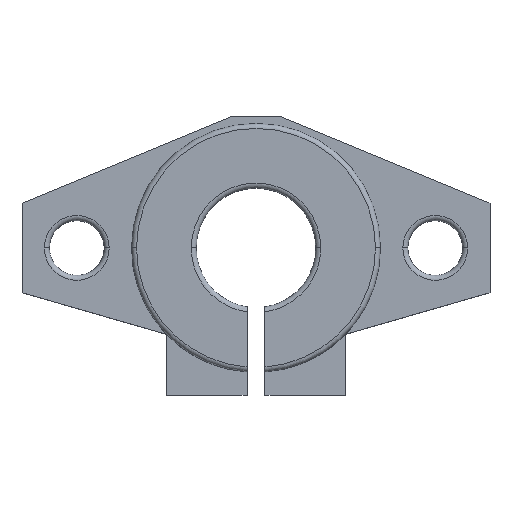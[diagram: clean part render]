
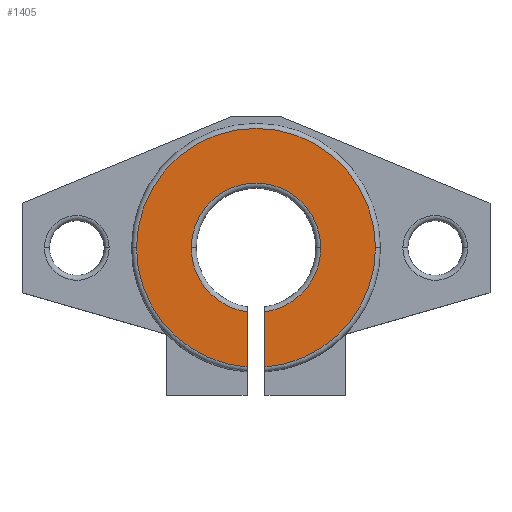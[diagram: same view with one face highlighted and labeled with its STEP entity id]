
A CAD part, top view. The second image highlights one B-rep face of the part: STEP entity #1405.
In plain terms, the highlighted planar face has unit normal (0, 0, 1).
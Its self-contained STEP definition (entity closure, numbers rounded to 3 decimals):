
#8 = EDGE_CURVE ( 'NONE', #993, #473, #818, .T. ) ;
#33 = VERTEX_POINT ( 'NONE', #1013 ) ;
#41 = DIRECTION ( 'NONE',  ( 1., 0., 0. ) ) ;
#45 = CIRCLE ( 'NONE', #127, 12. ) ;
#59 = EDGE_CURVE ( 'NONE', #1027, #1133, #239, .T. ) ;
#127 = AXIS2_PLACEMENT_3D ( 'NONE', #222, #950, #847 ) ;
#141 = CARTESIAN_POINT ( 'NONE',  ( 0., 0., 13. ) ) ;
#200 = ORIENTED_EDGE ( 'NONE', *, *, #751, .F. ) ;
#217 = AXIS2_PLACEMENT_3D ( 'NONE', #1404, #681, #1166 ) ;
#222 = CARTESIAN_POINT ( 'NONE',  ( 0., 0., 13. ) ) ;
#231 = CARTESIAN_POINT ( 'NONE',  ( 6.5, 0., 13. ) ) ;
#234 = CARTESIAN_POINT ( 'NONE',  ( -6.5, 0., 13. ) ) ;
#239 = CIRCLE ( 'NONE', #339, 12. ) ;
#247 = CARTESIAN_POINT ( 'NONE',  ( 0., 0., 13. ) ) ;
#258 = ORIENTED_EDGE ( 'NONE', *, *, #833, .T. ) ;
#263 = AXIS2_PLACEMENT_3D ( 'NONE', #141, #1138, #384 ) ;
#280 = ORIENTED_EDGE ( 'NONE', *, *, #1332, .T. ) ;
#311 = CIRCLE ( 'NONE', #263, 6.5 ) ;
#339 = AXIS2_PLACEMENT_3D ( 'NONE', #777, #1485, #1024 ) ;
#351 = DIRECTION ( 'NONE',  ( 0., 1., 0. ) ) ;
#352 = ORIENTED_EDGE ( 'NONE', *, *, #8, .T. ) ;
#372 = CARTESIAN_POINT ( 'NONE',  ( 0., 0., 13. ) ) ;
#384 = DIRECTION ( 'NONE',  ( 1., 0., 0. ) ) ;
#422 = AXIS2_PLACEMENT_3D ( 'NONE', #887, #524, #41 ) ;
#425 = EDGE_CURVE ( 'NONE', #445, #1204, #1190, .T. ) ;
#434 = DIRECTION ( 'NONE',  ( 0., -1., 0. ) ) ;
#439 = AXIS2_PLACEMENT_3D ( 'NONE', #372, #1113, #752 ) ;
#445 = VERTEX_POINT ( 'NONE', #604 ) ;
#470 = CARTESIAN_POINT ( 'NONE',  ( 0.9, 0., 13. ) ) ;
#473 = VERTEX_POINT ( 'NONE', #231 ) ;
#524 = DIRECTION ( 'NONE',  ( 0., 0., 1. ) ) ;
#593 = ORIENTED_EDGE ( 'NONE', *, *, #59, .T. ) ;
#597 = CARTESIAN_POINT ( 'NONE',  ( 0.9, -6.437, 13. ) ) ;
#604 = CARTESIAN_POINT ( 'NONE',  ( 0.9, -11.966, 13. ) ) ;
#681 = DIRECTION ( 'NONE',  ( 0., 0., -1. ) ) ;
#738 = CARTESIAN_POINT ( 'NONE',  ( -12., 0., 13. ) ) ;
#751 = EDGE_CURVE ( 'NONE', #33, #1133, #1228, .T. ) ;
#752 = DIRECTION ( 'NONE',  ( 1., 0., 0. ) ) ;
#777 = CARTESIAN_POINT ( 'NONE',  ( 0., 0., 13. ) ) ;
#785 = CIRCLE ( 'NONE', #217, 6.5 ) ;
#818 = CIRCLE ( 'NONE', #1083, 6.5 ) ;
#824 = EDGE_LOOP ( 'NONE', ( #1578, #1301, #1336, #593, #200, #280, #352, #258 ) ) ;
#833 = EDGE_CURVE ( 'NONE', #473, #1204, #785, .T. ) ;
#847 = DIRECTION ( 'NONE',  ( 1., 0., 0. ) ) ;
#887 = CARTESIAN_POINT ( 'NONE',  ( 0., 0., 13. ) ) ;
#911 = FACE_OUTER_BOUND ( 'NONE', #824, .T. ) ;
#950 = DIRECTION ( 'NONE',  ( 0., 0., 1. ) ) ;
#984 = CARTESIAN_POINT ( 'NONE',  ( 12., 0., 13. ) ) ;
#993 = VERTEX_POINT ( 'NONE', #234 ) ;
#996 = VECTOR ( 'NONE', #351, 1000. ) ;
#1013 = CARTESIAN_POINT ( 'NONE',  ( -0.9, -6.437, 13. ) ) ;
#1024 = DIRECTION ( 'NONE',  ( 1., 0., 0. ) ) ;
#1027 = VERTEX_POINT ( 'NONE', #738 ) ;
#1080 = EDGE_CURVE ( 'NONE', #1296, #1027, #45, .T. ) ;
#1083 = AXIS2_PLACEMENT_3D ( 'NONE', #247, #1464, #1458 ) ;
#1099 = CIRCLE ( 'NONE', #439, 12. ) ;
#1113 = DIRECTION ( 'NONE',  ( 0., 0., 1. ) ) ;
#1133 = VERTEX_POINT ( 'NONE', #1208 ) ;
#1138 = DIRECTION ( 'NONE',  ( 0., 0., -1. ) ) ;
#1166 = DIRECTION ( 'NONE',  ( 1., 0., 0. ) ) ;
#1190 = LINE ( 'NONE', #470, #996 ) ;
#1191 = EDGE_CURVE ( 'NONE', #445, #1296, #1099, .T. ) ;
#1204 = VERTEX_POINT ( 'NONE', #597 ) ;
#1208 = CARTESIAN_POINT ( 'NONE',  ( -0.9, -11.966, 13. ) ) ;
#1228 = LINE ( 'NONE', #1518, #1582 ) ;
#1264 = PLANE ( 'NONE',  #422 ) ;
#1296 = VERTEX_POINT ( 'NONE', #984 ) ;
#1301 = ORIENTED_EDGE ( 'NONE', *, *, #1191, .T. ) ;
#1332 = EDGE_CURVE ( 'NONE', #33, #993, #311, .T. ) ;
#1336 = ORIENTED_EDGE ( 'NONE', *, *, #1080, .T. ) ;
#1404 = CARTESIAN_POINT ( 'NONE',  ( 0., 0., 13. ) ) ;
#1405 = ADVANCED_FACE ( 'NONE', ( #911 ), #1264, .T. ) ;
#1458 = DIRECTION ( 'NONE',  ( 1., 0., 0. ) ) ;
#1464 = DIRECTION ( 'NONE',  ( 0., 0., -1. ) ) ;
#1485 = DIRECTION ( 'NONE',  ( 0., 0., 1. ) ) ;
#1518 = CARTESIAN_POINT ( 'NONE',  ( -0.9, 0., 13. ) ) ;
#1578 = ORIENTED_EDGE ( 'NONE', *, *, #425, .F. ) ;
#1582 = VECTOR ( 'NONE', #434, 1000. ) ;
